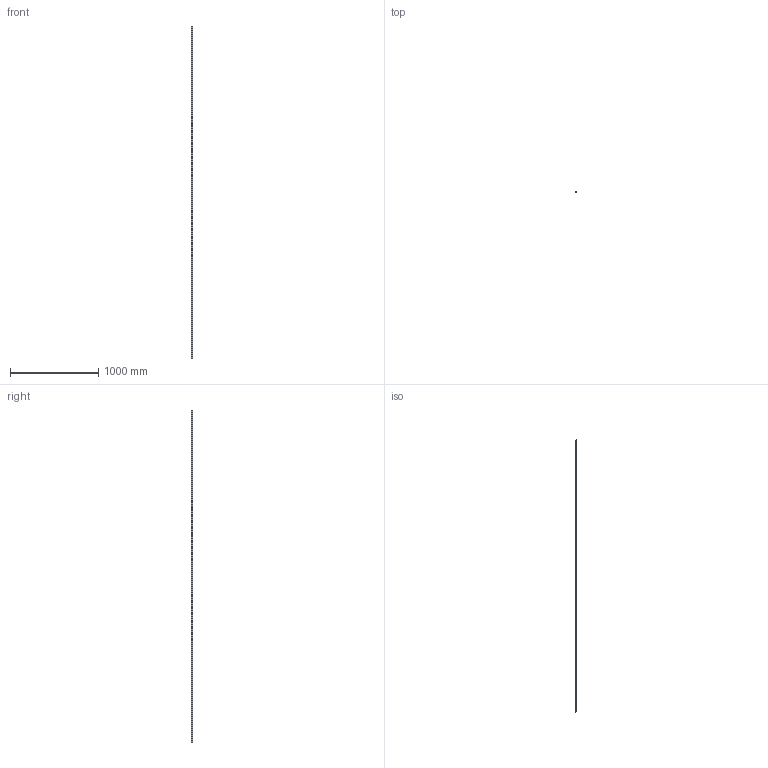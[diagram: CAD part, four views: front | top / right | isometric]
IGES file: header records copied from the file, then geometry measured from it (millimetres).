
Start section: SolidWorks IGES file using analytic representation for surfaces
Global section: file name: C:\Users\IanO\Desktop\L1016_v2\L1016.BL15_v2\L1016.BL15_v2_20190611_IGES\L1016.BL15-3760.igs; native system: SolidWorks 2017; preprocessor: SolidWorks 2017; author: IanO; date: 190612.123746; units: millimetre
Bounding box: 15 x 13 x 3760 mm (x, y, z)
Surface area: 229525.2 mm2 (no closed solid volume)
Topology: 0 solids, 0 shells, 341 faces, 9224 edges, 9224 vertices
Faces by surface type: revolution 256, bspline 85
